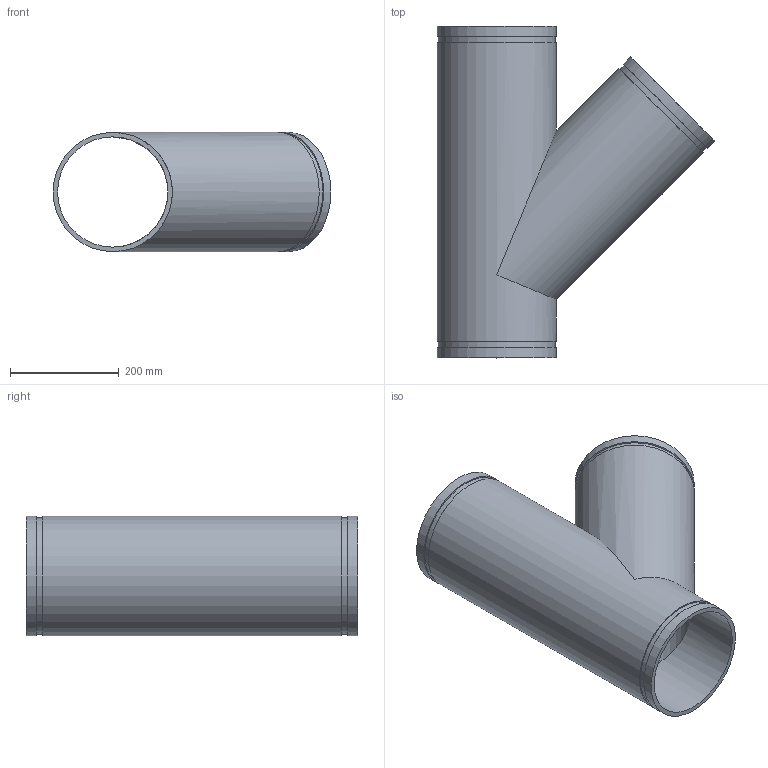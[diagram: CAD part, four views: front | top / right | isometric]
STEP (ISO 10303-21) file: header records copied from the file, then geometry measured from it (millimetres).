
FILE_DESCRIPTION(/* description */ ('VIC 45 DEG FABRICATED LATERAL No 30 SWS (OGS)','CAx-IF Rec.Pracs.---Representation and Presentation of Product Manufacturing Information (PMI)---4.0---2014-10-13'),/* implementation_level */ '2;1');
FILE_NAME(/* name */ 'C:\Users\kkamble\AppData\Roaming\Autodesk\ApplicationPlugins\Back Up\Victaulic_IPS_Lateral 45 Deg_No 30 SWS (OGS)\Victaulic_IPS_Lateral 45 Deg_No 30 SWS (OGS)_8 (200).stp',/* time_stamp */ '2020-09-16T22:21:01+06:00',/* author */ ('cgray'),/* organization */ ('Victaulic'),/* preprocessor_version */ 'ST-DEVELOPER v17.2',/* originating_system */ 'Autodesk Inventor 2019',/* authorisation */ '');
FILE_SCHEMA (('AP242_MANAGED_MODEL_BASED_3D_ENGINEERING_MIM_LF { 1 0 10303 442 1 1 4 }'));
Length unit declared in the file: inch
Products named in the file (1): 30 SWS-08.0
Bounding box: 510.28 x 609.6 x 219.07 mm (x, y, z)
Volume: 4698325.9 mm3; surface area: 1186950.5 mm2
Topology: 1 solids, 1 shells, 19 faces, 45 edges, 34 vertices
Faces by surface type: cylinder 10, plane 9
Full cylindrical faces by diameter (mm): 202.717 x2, 214.401 x3, 219.075 x5
Entity records: 748 total; most frequent: DIRECTION 145, CARTESIAN_POINT 116, ORIENTED_EDGE 90, AXIS2_PLACEMENT_3D 67, EDGE_CURVE 45, VERTEX_POINT 34, EDGE_LOOP 29, CIRCLE 27
